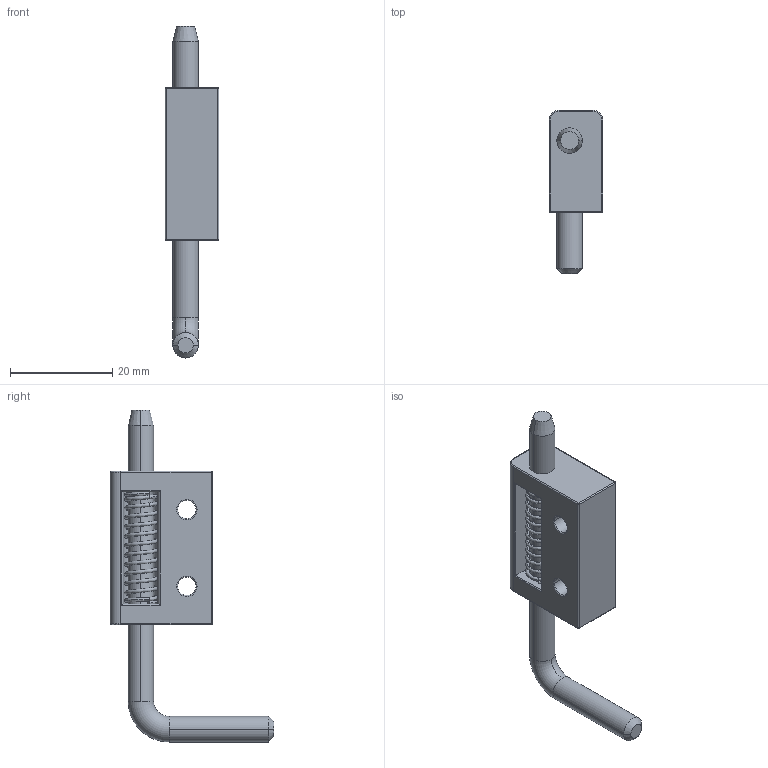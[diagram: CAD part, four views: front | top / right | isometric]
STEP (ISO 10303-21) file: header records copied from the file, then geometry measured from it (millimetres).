
FILE_DESCRIPTION (( 'STEP AP214' ), '1' );
FILE_NAME ('3.ST94.001.STEP', '2014-03-18T11:13:57', ( 'lukasz' ), ( 'ATC' ), 'SwSTEP 2.0', 'SolidWorks 2014', '' );
FILE_SCHEMA (( 'AUTOMOTIVE_DESIGN' ));
Length unit declared in the file: millimetre
Products named in the file (4): 3.ST94.001.03-z³o¿; 3.ST94.001.02; 3.ST94.001.01; 3.ST94.001
Assembly tree (3 placements, depth 2):
  3.ST94.001
    3.ST94.001.01
    3.ST94.001.02
    3.ST94.001.03-z³o¿
Bounding box: 10.5 x 32 x 65 mm (x, y, z)
Volume: 6569.1 mm3; surface area: 4670.5 mm2
Topology: 3 solids, 3 shells, 84 faces, 187 edges, 108 vertices
Faces by surface type: cylinder 34, plane 16, torus 14, bspline 12, sphere 4, cone 4
Entity records: 5403 total; most frequent: CARTESIAN_POINT 3401, DIRECTION 431, ORIENTED_EDGE 366, AXIS2_PLACEMENT_3D 186, EDGE_CURVE 183, VERTEX_POINT 108, CIRCLE 108, EDGE_LOOP 95
